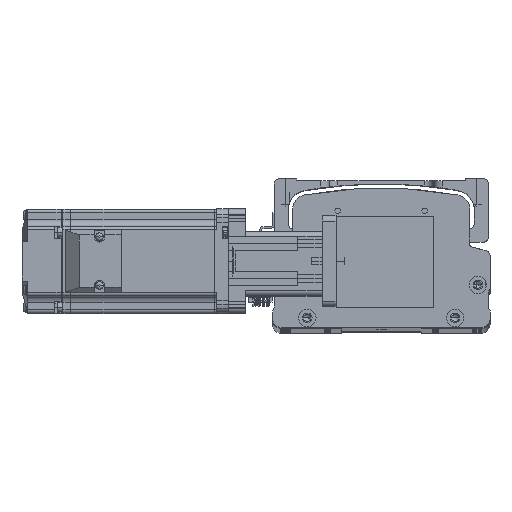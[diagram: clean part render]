
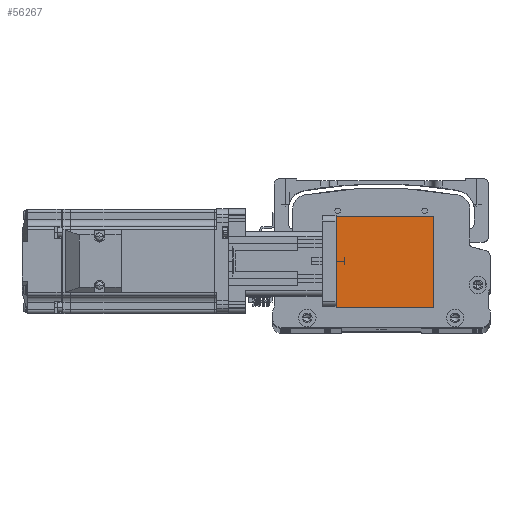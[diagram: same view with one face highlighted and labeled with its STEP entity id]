
A CAD part, top view. The second image highlights one B-rep face of the part: STEP entity #56267.
In plain terms, the highlighted planar face has unit normal (0, 0, 1) as drawn and (-1, 0, 0) by its records, which use the part's own axes.
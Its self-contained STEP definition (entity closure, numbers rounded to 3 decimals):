
#1126 = VERTEX_POINT ( 'NONE', #31901 ) ;
#2526 = LINE ( 'NONE', #50175, #16064 ) ;
#3263 = CARTESIAN_POINT ( 'NONE',  ( -31.5, -26., 56. ) ) ;
#3683 = ORIENTED_EDGE ( 'NONE', *, *, #37431, .T. ) ;
#6881 = DIRECTION ( 'NONE',  ( 0., -1., 0. ) ) ;
#7657 = VECTOR ( 'NONE', #6881, 1000. ) ;
#9212 = DIRECTION ( 'NONE',  ( 0., 0., -1. ) ) ;
#9327 = CARTESIAN_POINT ( 'NONE',  ( -31.5, -26., 0. ) ) ;
#9358 = ORIENTED_EDGE ( 'NONE', *, *, #11010, .F. ) ;
#11010 = EDGE_CURVE ( 'NONE', #45896, #51034, #33063, .T. ) ;
#13197 = CARTESIAN_POINT ( 'NONE',  ( -31.5, 26., 56. ) ) ;
#16064 = VECTOR ( 'NONE', #9212, 1000. ) ;
#18577 = PLANE ( 'NONE',  #23815 ) ;
#19203 = ORIENTED_EDGE ( 'NONE', *, *, #54162, .T. ) ;
#19981 = VERTEX_POINT ( 'NONE', #9327 ) ;
#21109 = VECTOR ( 'NONE', #25397, 1000. ) ;
#21248 = LINE ( 'NONE', #42550, #7657 ) ;
#23815 = AXIS2_PLACEMENT_3D ( 'NONE', #3263, #64376, #33928 ) ;
#25397 = DIRECTION ( 'NONE',  ( 0., -1., 0. ) ) ;
#30198 = CARTESIAN_POINT ( 'NONE',  ( -31.5, -26., 56. ) ) ;
#31901 = CARTESIAN_POINT ( 'NONE',  ( -31.5, 26., 0. ) ) ;
#33063 = LINE ( 'NONE', #60934, #21109 ) ;
#33928 = DIRECTION ( 'NONE',  ( 0., 0., -1. ) ) ;
#37431 = EDGE_CURVE ( 'NONE', #45896, #1126, #2526, .T. ) ;
#37777 = ORIENTED_EDGE ( 'NONE', *, *, #38999, .F. ) ;
#38325 = VECTOR ( 'NONE', #65725, 1000. ) ;
#38999 = EDGE_CURVE ( 'NONE', #51034, #19981, #65323, .T. ) ;
#39383 = CARTESIAN_POINT ( 'NONE',  ( -31.5, -26., 56. ) ) ;
#42550 = CARTESIAN_POINT ( 'NONE',  ( -31.5, -26., 0. ) ) ;
#45896 = VERTEX_POINT ( 'NONE', #13197 ) ;
#50175 = CARTESIAN_POINT ( 'NONE',  ( -31.5, 26., 56. ) ) ;
#51034 = VERTEX_POINT ( 'NONE', #39383 ) ;
#52624 = EDGE_LOOP ( 'NONE', ( #19203, #37777, #9358, #3683 ) ) ;
#54162 = EDGE_CURVE ( 'NONE', #1126, #19981, #21248, .T. ) ;
#56267 = ADVANCED_FACE ( 'NONE', ( #63107 ), #18577, .F. ) ;
#60934 = CARTESIAN_POINT ( 'NONE',  ( -31.5, -26., 56. ) ) ;
#63107 = FACE_OUTER_BOUND ( 'NONE', #52624, .T. ) ;
#64376 = DIRECTION ( 'NONE',  ( 1., 0., 0. ) ) ;
#65323 = LINE ( 'NONE', #30198, #38325 ) ;
#65725 = DIRECTION ( 'NONE',  ( 0., 0., -1. ) ) ;
